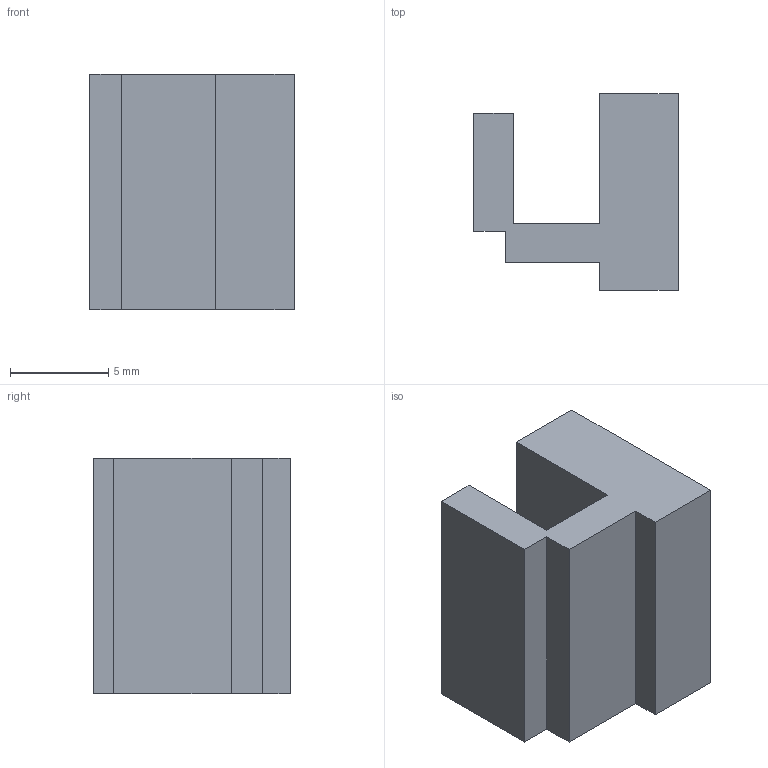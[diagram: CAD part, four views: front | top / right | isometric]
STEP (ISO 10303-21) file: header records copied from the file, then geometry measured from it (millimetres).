
FILE_DESCRIPTION(('Open CASCADE Model'),'2;1');
FILE_NAME('Open CASCADE Shape Model','2026-09-13T15:34:21',('Author'),( 'Open CASCADE'),'Open CASCADE STEP processor 7.9','build123d', 'Unknown');
FILE_SCHEMA(('AUTOMOTIVE_DESIGN { 1 0 10303 214 1 1 1 1 }'));
Length unit declared in the file: millimetre
Products named in the file (2): =>[0:1:1:2]; COMPOUND
Assembly tree (1 placements, depth 2):
  =>[0:1:1:2]
    COMPOUND
Bounding box: 10.4 x 10 x 12 mm (x, y, z)
Volume: 737.3 mm3; surface area: 746.9 mm2
Topology: 1 solids, 1 shells, 14 faces, 36 edges, 24 vertices
Faces by surface type: plane 14
Entity records: 908 total; most frequent: CARTESIAN_POINT 156, DIRECTION 132, LINE 100, VECTOR 100, ORIENTED_EDGE 72, PCURVE 72, DEFINITIONAL_REPRESENTATION 72, EDGE_CURVE 36
